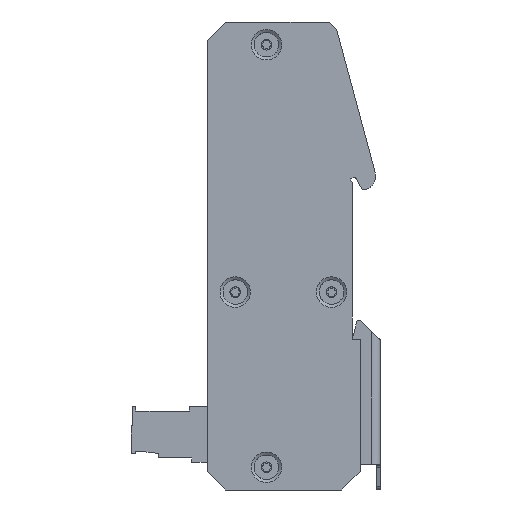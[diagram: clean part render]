
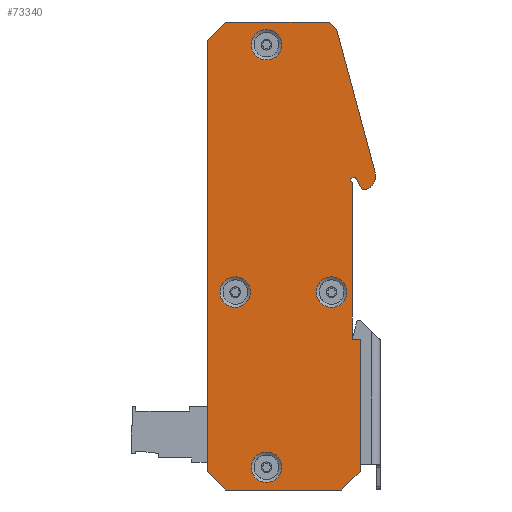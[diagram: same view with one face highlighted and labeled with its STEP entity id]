
A CAD part, left-side view. The second image highlights one B-rep face of the part: STEP entity #73340.
In plain terms, the highlighted planar face has unit normal (-1, 0, 0).
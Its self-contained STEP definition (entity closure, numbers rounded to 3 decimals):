
#48669=CARTESIAN_POINT('',(-55.,11.8,42.425));
#48670=VERTEX_POINT('',#48669);
#48677=CARTESIAN_POINT('',(-55.,11.8,39.));
#48678=DIRECTION('',(1.,-0.,0.));
#48679=DIRECTION('',(0.,0.,1.));
#48680=AXIS2_PLACEMENT_3D('',#48677,#48678,#48679);
#48681=CIRCLE('',#48680,3.425);
#48682=EDGE_CURVE('',#48670,#48670,#48681,.T.);
#48695=CARTESIAN_POINT('',(-55.,4.8,3.125));
#48696=VERTEX_POINT('',#48695);
#48703=CARTESIAN_POINT('',(-55.,4.8,-0.3));
#48704=DIRECTION('',(1.,-0.,0.));
#48705=DIRECTION('',(0.,0.,1.));
#48706=AXIS2_PLACEMENT_3D('',#48703,#48704,#48705);
#48707=CIRCLE('',#48706,3.425);
#48708=EDGE_CURVE('',#48696,#48696,#48707,.T.);
#48721=CARTESIAN_POINT('',(-55.,-9.8,42.425));
#48722=VERTEX_POINT('',#48721);
#48729=CARTESIAN_POINT('',(-55.,-9.8,39.));
#48730=DIRECTION('',(1.,-0.,0.));
#48731=DIRECTION('',(0.,0.,1.));
#48732=AXIS2_PLACEMENT_3D('',#48729,#48730,#48731);
#48733=CIRCLE('',#48732,3.425);
#48734=EDGE_CURVE('',#48722,#48722,#48733,.T.);
#48747=CARTESIAN_POINT('',(-55.,4.8,97.925));
#48748=VERTEX_POINT('',#48747);
#48755=CARTESIAN_POINT('',(-55.,4.8,94.5));
#48756=DIRECTION('',(1.,-0.,0.));
#48757=DIRECTION('',(0.,0.,1.));
#48758=AXIS2_PLACEMENT_3D('',#48755,#48756,#48757);
#48759=CIRCLE('',#48758,3.425);
#48760=EDGE_CURVE('',#48748,#48748,#48759,.T.);
#73182=CARTESIAN_POINT('',(-55.,0.95,47.1));
#73183=DIRECTION('',(-1.,0.,0.));
#73184=DIRECTION('',(-0.,-1.,0.));
#73185=AXIS2_PLACEMENT_3D('',#73182,#73183,#73184);
#73186=PLANE('',#73185);
#73187=ORIENTED_EDGE('',*,*,#48760,.T.);
#73188=EDGE_LOOP('',(#73187));
#73189=FACE_BOUND('',#73188,.T.);
#73190=ORIENTED_EDGE('',*,*,#48734,.T.);
#73191=EDGE_LOOP('',(#73190));
#73192=FACE_BOUND('',#73191,.T.);
#73193=ORIENTED_EDGE('',*,*,#48708,.T.);
#73194=EDGE_LOOP('',(#73193));
#73195=FACE_BOUND('',#73194,.T.);
#73196=ORIENTED_EDGE('',*,*,#48682,.T.);
#73197=EDGE_LOOP('',(#73196));
#73198=FACE_BOUND('',#73197,.T.);
#73199=CARTESIAN_POINT('',(-55.,-16.2,-1.3));
#73200=VERTEX_POINT('',#73199);
#73201=CARTESIAN_POINT('',(-55.,-16.2,28.45));
#73202=VERTEX_POINT('',#73201);
#73203=CARTESIAN_POINT('',(-55.,-16.2,-1.3));
#73204=DIRECTION('',(0.,0.,1.));
#73205=VECTOR('',#73204,29.75);
#73206=LINE('',#73203,#73205);
#73207=EDGE_CURVE('',#73200,#73202,#73206,.T.);
#73208=ORIENTED_EDGE('',*,*,#73207,.T.);
#73209=CARTESIAN_POINT('',(-55.,-14.4,28.45));
#73210=VERTEX_POINT('',#73209);
#73211=CARTESIAN_POINT('',(-55.,-16.2,28.45));
#73212=DIRECTION('',(0.,1.,-0.));
#73213=VECTOR('',#73212,1.8);
#73214=LINE('',#73211,#73213);
#73215=EDGE_CURVE('',#73202,#73210,#73214,.T.);
#73216=ORIENTED_EDGE('',*,*,#73215,.T.);
#73217=CARTESIAN_POINT('',(-55.,-14.4,63.65));
#73218=VERTEX_POINT('',#73217);
#73219=CARTESIAN_POINT('',(-55.,-14.4,28.45));
#73220=DIRECTION('',(0.,0.,1.));
#73221=VECTOR('',#73220,35.2);
#73222=LINE('',#73219,#73221);
#73223=EDGE_CURVE('',#73210,#73218,#73222,.T.);
#73224=ORIENTED_EDGE('',*,*,#73223,.T.);
#73225=CARTESIAN_POINT('',(-55.,-14.008,64.387));
#73226=VERTEX_POINT('',#73225);
#73227=CARTESIAN_POINT('',(-55.,-14.4,63.65));
#73228=DIRECTION('',(0.,0.469,0.883));
#73229=VECTOR('',#73228,0.834);
#73230=LINE('',#73227,#73229);
#73231=EDGE_CURVE('',#73218,#73226,#73230,.T.);
#73232=ORIENTED_EDGE('',*,*,#73231,.T.);
#73233=CARTESIAN_POINT('',(-55.,-14.626,64.715));
#73234=VERTEX_POINT('',#73233);
#73235=CARTESIAN_POINT('',(-55.,-14.008,64.387));
#73236=DIRECTION('',(-0.,-0.883,0.469));
#73237=VECTOR('',#73236,0.7);
#73238=LINE('',#73235,#73237);
#73239=EDGE_CURVE('',#73226,#73234,#73238,.T.);
#73240=ORIENTED_EDGE('',*,*,#73239,.T.);
#73241=CARTESIAN_POINT('',(-55.,-15.303,64.509));
#73242=VERTEX_POINT('',#73241);
#73243=CARTESIAN_POINT('',(-55.,-14.861,64.274));
#73244=DIRECTION('',(1.,-0.,0.));
#73245=DIRECTION('',(0.,1.,0.));
#73246=AXIS2_PLACEMENT_3D('',#73243,#73244,#73245);
#73247=CIRCLE('',#73246,0.5);
#73248=EDGE_CURVE('',#73234,#73242,#73247,.T.);
#73249=ORIENTED_EDGE('',*,*,#73248,.T.);
#73250=CARTESIAN_POINT('',(-55.,-16.663,61.95));
#73251=VERTEX_POINT('',#73250);
#73252=CARTESIAN_POINT('',(-55.,-15.303,64.509));
#73253=DIRECTION('',(-0.,-0.469,-0.883));
#73254=VECTOR('',#73253,2.897);
#73255=LINE('',#73252,#73254);
#73256=EDGE_CURVE('',#73242,#73251,#73255,.T.);
#73257=ORIENTED_EDGE('',*,*,#73256,.T.);
#73258=CARTESIAN_POINT('',(-55.,-16.7,61.95));
#73259=VERTEX_POINT('',#73258);
#73260=CARTESIAN_POINT('',(-55.,-16.7,64.95));
#73261=DIRECTION('',(-1.,0.,0.));
#73262=DIRECTION('',(0.,1.,0.));
#73263=AXIS2_PLACEMENT_3D('',#73260,#73261,#73262);
#73264=CIRCLE('',#73263,3.);
#73265=EDGE_CURVE('',#73251,#73259,#73264,.T.);
#73266=ORIENTED_EDGE('',*,*,#73265,.T.);
#73267=CARTESIAN_POINT('',(-55.,-19.597,65.728));
#73268=VERTEX_POINT('',#73267);
#73269=CARTESIAN_POINT('',(-55.,-16.7,64.95));
#73270=DIRECTION('',(-1.,0.,0.));
#73271=DIRECTION('',(0.,1.,0.));
#73272=AXIS2_PLACEMENT_3D('',#73269,#73270,#73271);
#73273=CIRCLE('',#73272,3.);
#73274=EDGE_CURVE('',#73259,#73268,#73273,.T.);
#73275=ORIENTED_EDGE('',*,*,#73274,.T.);
#73276=CARTESIAN_POINT('',(-55.,-10.941,97.959));
#73277=VERTEX_POINT('',#73276);
#73278=CARTESIAN_POINT('',(-55.,-19.597,65.728));
#73279=DIRECTION('',(0.,0.259,0.966));
#73280=VECTOR('',#73279,33.373);
#73281=LINE('',#73278,#73280);
#73282=EDGE_CURVE('',#73268,#73277,#73281,.T.);
#73283=ORIENTED_EDGE('',*,*,#73282,.T.);
#73284=CARTESIAN_POINT('',(-55.,-9.3,99.6));
#73285=VERTEX_POINT('',#73284);
#73286=CARTESIAN_POINT('',(-55.,-10.941,97.959));
#73287=DIRECTION('',(0.,0.707,0.707));
#73288=VECTOR('',#73287,2.32);
#73289=LINE('',#73286,#73288);
#73290=EDGE_CURVE('',#73277,#73285,#73289,.T.);
#73291=ORIENTED_EDGE('',*,*,#73290,.T.);
#73292=CARTESIAN_POINT('',(-55.,14.,99.6));
#73293=VERTEX_POINT('',#73292);
#73294=CARTESIAN_POINT('',(-55.,-9.3,99.6));
#73295=DIRECTION('',(0.,1.,0.));
#73296=VECTOR('',#73295,23.3);
#73297=LINE('',#73294,#73296);
#73298=EDGE_CURVE('',#73285,#73293,#73297,.T.);
#73299=ORIENTED_EDGE('',*,*,#73298,.T.);
#73300=CARTESIAN_POINT('',(-55.,18.1,95.5));
#73301=VERTEX_POINT('',#73300);
#73302=CARTESIAN_POINT('',(-55.,14.,99.6));
#73303=DIRECTION('',(0.,0.707,-0.707));
#73304=VECTOR('',#73303,5.798);
#73305=LINE('',#73302,#73304);
#73306=EDGE_CURVE('',#73293,#73301,#73305,.T.);
#73307=ORIENTED_EDGE('',*,*,#73306,.T.);
#73308=CARTESIAN_POINT('',(-55.,18.1,-1.3));
#73309=VERTEX_POINT('',#73308);
#73310=CARTESIAN_POINT('',(-55.,18.1,95.5));
#73311=DIRECTION('',(0.,0.,-1.));
#73312=VECTOR('',#73311,96.8);
#73313=LINE('',#73310,#73312);
#73314=EDGE_CURVE('',#73301,#73309,#73313,.T.);
#73315=ORIENTED_EDGE('',*,*,#73314,.T.);
#73316=CARTESIAN_POINT('',(-55.,14.,-5.4));
#73317=VERTEX_POINT('',#73316);
#73318=CARTESIAN_POINT('',(-55.,18.1,-1.3));
#73319=DIRECTION('',(-0.,-0.707,-0.707));
#73320=VECTOR('',#73319,5.798);
#73321=LINE('',#73318,#73320);
#73322=EDGE_CURVE('',#73309,#73317,#73321,.T.);
#73323=ORIENTED_EDGE('',*,*,#73322,.T.);
#73324=CARTESIAN_POINT('',(-55.,-12.1,-5.4));
#73325=VERTEX_POINT('',#73324);
#73326=CARTESIAN_POINT('',(-55.,14.,-5.4));
#73327=DIRECTION('',(-0.,-1.,0.));
#73328=VECTOR('',#73327,26.1);
#73329=LINE('',#73326,#73328);
#73330=EDGE_CURVE('',#73317,#73325,#73329,.T.);
#73331=ORIENTED_EDGE('',*,*,#73330,.T.);
#73332=CARTESIAN_POINT('',(-55.,-12.1,-5.4));
#73333=DIRECTION('',(-0.,-0.707,0.707));
#73334=VECTOR('',#73333,5.798);
#73335=LINE('',#73332,#73334);
#73336=EDGE_CURVE('',#73325,#73200,#73335,.T.);
#73337=ORIENTED_EDGE('',*,*,#73336,.T.);
#73338=EDGE_LOOP('',(#73208,#73216,#73224,#73232,#73240,#73249,#73257,#73266,#73275,#73283,#73291,#73299,#73307,#73315,#73323,#73331,#73337));
#73339=FACE_BOUND('',#73338,.T.);
#73340=ADVANCED_FACE('',(#73189,#73192,#73195,#73198,#73339),#73186,.T.);
